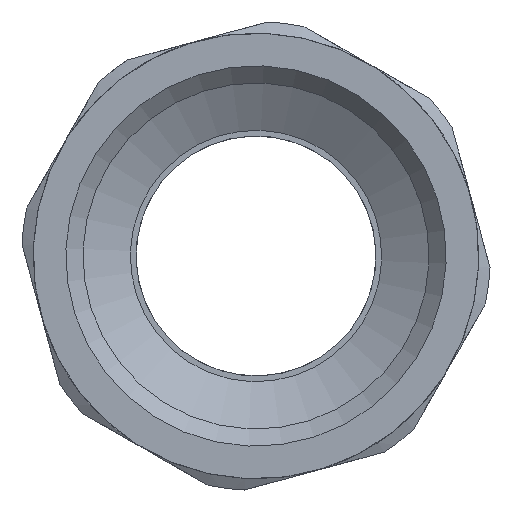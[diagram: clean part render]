
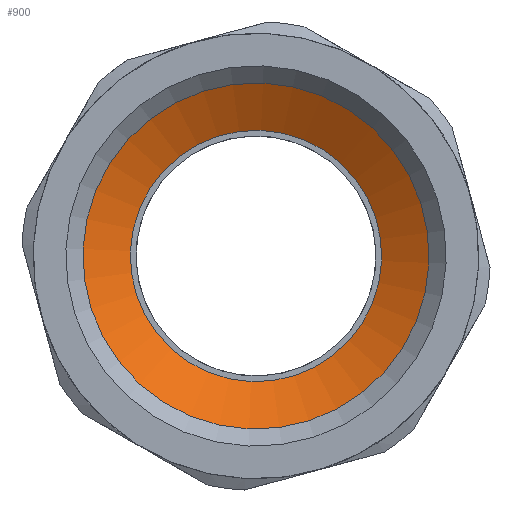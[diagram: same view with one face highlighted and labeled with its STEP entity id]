
A CAD part, left-side view. The second image highlights one B-rep face of the part: STEP entity #900.
In plain terms, the highlighted conical face has half-angle 60 degrees and reference radius 13.073 mm.
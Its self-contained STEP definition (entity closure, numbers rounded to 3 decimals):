
#110=CONICAL_SURFACE('',#1015,13.073,60.);
#175=FACE_BOUND('',#324,.T.);
#238=FACE_OUTER_BOUND('',#323,.T.);
#323=EDGE_LOOP('',(#781));
#324=EDGE_LOOP('',(#782));
#374=CIRCLE('',#949,15.146);
#407=CIRCLE('',#1016,11.);
#432=VERTEX_POINT('',#1369);
#481=VERTEX_POINT('',#1573);
#516=EDGE_CURVE('',#432,#432,#374,.T.);
#589=EDGE_CURVE('',#481,#481,#407,.T.);
#781=ORIENTED_EDGE('',*,*,#589,.F.);
#782=ORIENTED_EDGE('',*,*,#516,.T.);
#900=ADVANCED_FACE('',(#238,#175),#110,.F.);
#949=AXIS2_PLACEMENT_3D('',#1370,#1104,#1105);
#1015=AXIS2_PLACEMENT_3D('',#1572,#1252,#1253);
#1016=AXIS2_PLACEMENT_3D('',#1574,#1254,#1255);
#1104=DIRECTION('center_axis',(1.,0.,0.));
#1105=DIRECTION('ref_axis',(0.,1.,0.));
#1252=DIRECTION('center_axis',(1.,0.,0.));
#1253=DIRECTION('ref_axis',(0.,1.,0.));
#1254=DIRECTION('center_axis',(1.,0.,0.));
#1255=DIRECTION('ref_axis',(0.,1.,0.));
#1369=CARTESIAN_POINT('',(15.,15.146,0.));
#1370=CARTESIAN_POINT('Origin',(15.,0.,0.));
#1572=CARTESIAN_POINT('Origin',(13.803,0.,0.));
#1573=CARTESIAN_POINT('',(12.607,11.,0.));
#1574=CARTESIAN_POINT('Origin',(12.607,0.,0.));
